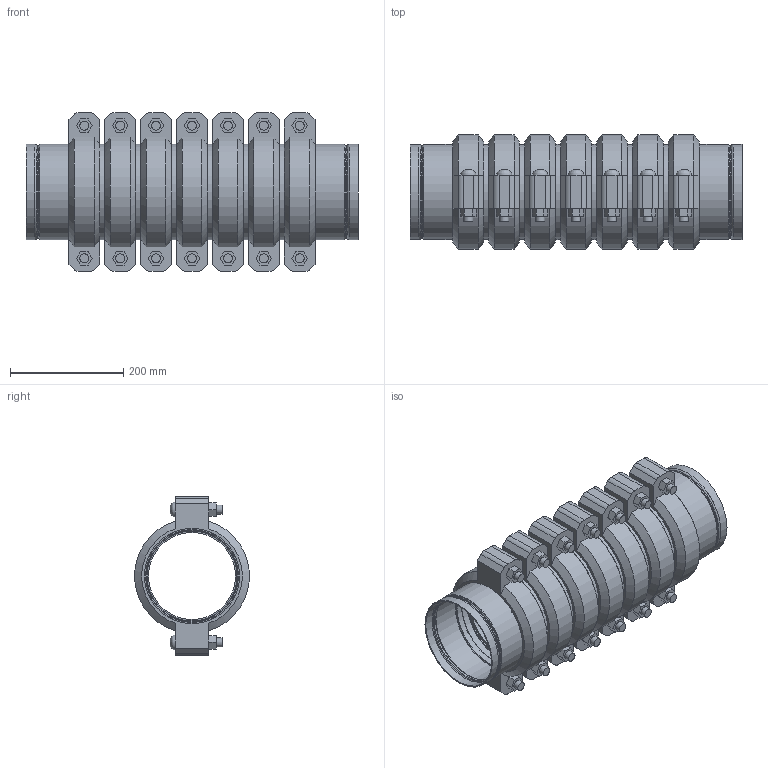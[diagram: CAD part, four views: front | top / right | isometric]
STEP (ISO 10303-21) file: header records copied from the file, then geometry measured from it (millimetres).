
FILE_DESCRIPTION(/* description */ ('VIC STRENGTHIN 100 EXPANSION JOINT 7 COUPLINGS NEUTRAL STYLE E155 (ST1)','CAx-IF Rec.Pracs.---Representation and Presentation of Product Manufacturing Information (PMI)---4.0---2014-10-13'),/* implementation_level */ '2;1');
FILE_NAME(/* name */ 'C:\Users\Vjadhav\AppData\Roaming\Autodesk\ApplicationPlugins\Victaulic.Temp\A857\Victaulic_SS-StrengThin 100_Expansion Joint_Neutral_7 Couplings_Style E155 (ST1)_7 Coup_Neut_6 (150).stp',/* time_stamp */ '2021-07-20T17:50:01+05:00',/* author */ ('kkamble'),/* organization */ ('Victaulic'),/* preprocessor_version */ 'ST-DEVELOPER v17.2',/* originating_system */ 'Autodesk Inventor 2019',/* authorisation */ '');
FILE_SCHEMA (('AP242_MANAGED_MODEL_BASED_3D_ENGINEERING_MIM_LF { 1 0 10303 442 1 1 4 }'));
Length unit declared in the file: inch
Products named in the file (4): E155-06.0; E494G-06.0; Nipple-06.0; 075-06.0
Assembly tree (15 placements, depth 2):
  E155-06.0
    E494G-06.0  x2
    Nipple-06.0  x6
    075-06.0  x7
Bounding box: 587.5 x 202.46 x 281.18 mm (x, y, z)
Volume: 6680545.5 mm3; surface area: 1454761.8 mm2
Topology: 15 solids, 29 shells, 539 faces, 1333 edges, 940 vertices
Faces by surface type: plane 300, cylinder 161, torus 32, cone 32, bspline 14
Full cylindrical faces by diameter (mm): 15.875 x28, 17.424 x14, 154.051 x6, 159.258 x2, 159.944 x2, 161.925 x7, 163.271 x2, 163.957 x14, 164.262 x6, 168.275 x38
Entity records: 3782 total; most frequent: DIRECTION 673, CARTESIAN_POINT 661, ORIENTED_EDGE 548, AXIS2_PLACEMENT_3D 287, EDGE_CURVE 274, VERTEX_POINT 197, CIRCLE 167, EDGE_LOOP 129
